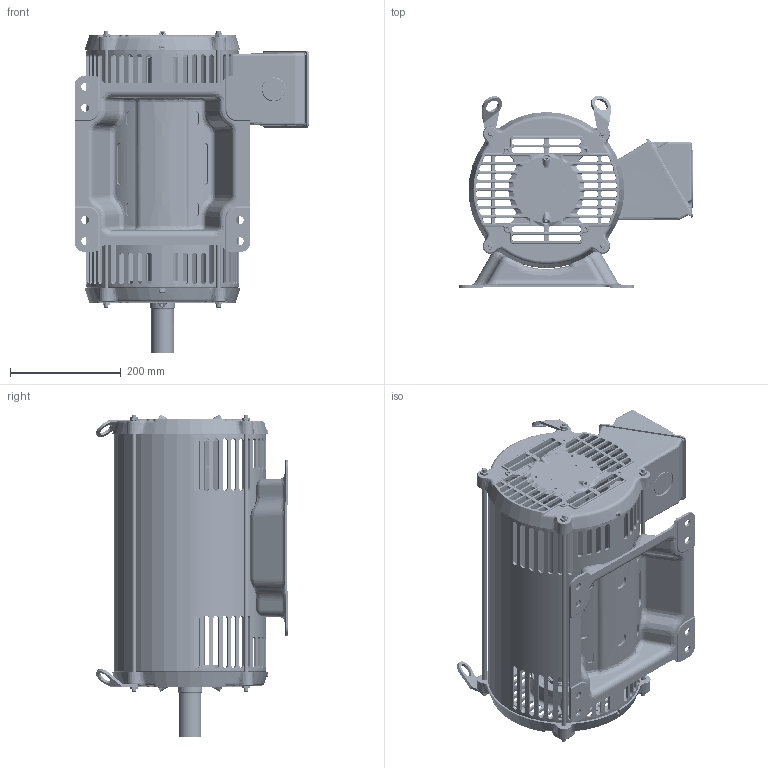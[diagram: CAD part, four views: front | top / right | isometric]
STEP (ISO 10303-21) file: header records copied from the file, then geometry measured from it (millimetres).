
FILE_DESCRIPTION((''),'2;1');
FILE_NAME('A280_ODP_ASM_2POLE_ASM','2021-09-13T15:04:06',('EMD2341'),('Nidec Motor Corporation'),'CREO PARAMETRIC BY PTC INC, 2020454','CREO PARAMETRIC BY PTC INC, 2020454','');
FILE_SCHEMA(('CONFIG_CONTROL_DESIGN'));
Length unit declared in the file: inch
Products named in the file (16): 2084116_AF0; 2028413-BKT_AF3; 2033996-005_AF2; 2028414_ASM; 2035295-BKT_AF1; 2033996-005_AF4; 2028415_ASM; 2083266; 0172877; 0929949-STU; 2084100; 0369733; 0041590; 0364282; 0364292; A280_ODP_ASM_2POLE_ASM
Assembly tree (26 placements, depth 3):
  A280_ODP_ASM_2POLE_ASM
    2084116_AF0
    2028414_ASM
      2028413-BKT_AF3
      2033996-005_AF2
    2028415_ASM
      2035295-BKT_AF1
      2033996-005_AF4
    2083266
    0172877
    0929949-STU  x4
    2084100
    0369733  x2
    0041590  x8
    0364282
    0364292
Bounding box: 424.55 x 347.64 x 584.09 mm (x, y, z)
Volume: 4652099.3 mm3; surface area: 1762883.6 mm2
Topology: 26 solids, 26 shells, 5149 faces, 12637 edges, 7527 vertices
Faces by surface type: bspline 1794, cylinder 1386, plane 1017, cone 489, torus 385, sphere 62, extrusion 16
Entity records: 245205 total; most frequent: CARTESIAN_POINT 139534, ORIENTED_EDGE 24610, DIRECTION 18368, EDGE_CURVE 12305, VERTEX_POINT 7339, AXIS2_PLACEMENT_3D 7183, EDGE_LOOP 5368, FACE_OUTER_BOUND 5009
